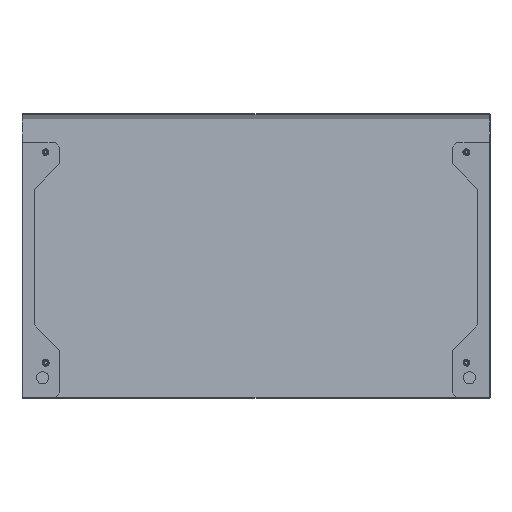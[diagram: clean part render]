
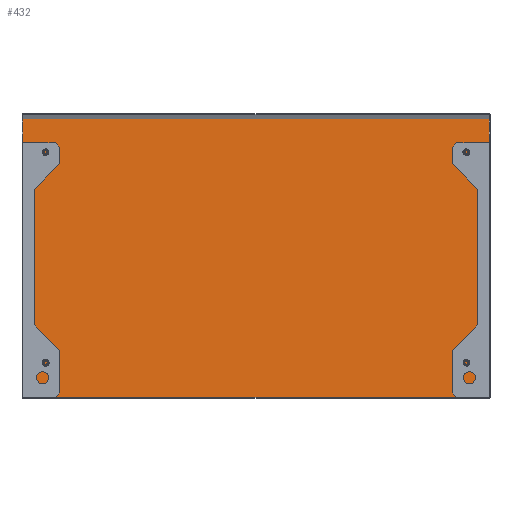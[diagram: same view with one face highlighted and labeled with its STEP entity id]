
A CAD part, front view. The second image highlights one B-rep face of the part: STEP entity #432.
In plain terms, the highlighted planar face has unit normal (0, -0.999, 0.054).
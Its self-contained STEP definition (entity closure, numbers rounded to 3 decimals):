
#315 = EDGE_CURVE ( 'NONE', #3249, #3251, #4048, .T. ) ;
#316 = EDGE_CURVE ( 'NONE', #3251, #3250, #4051, .T. ) ;
#317 = EDGE_CURVE ( 'NONE', #3248, #3249, #4054, .T. ) ;
#318 = EDGE_CURVE ( 'NONE', #3250, #3248, #4057, .T. ) ;
#432 = ADVANCED_FACE ( 'NONE', ( #785 ), #1394, .F. ) ;
#781 = AXIS2_PLACEMENT_3D ( 'NONE', #1395, #1396, #1397 ) ;
#785 = FACE_OUTER_BOUND ( 'NONE', #3488, .T. ) ;
#1077 = VECTOR ( 'NONE', #4059, 1000. ) ;
#1079 = VECTOR ( 'NONE', #4056, 1000. ) ;
#1081 = VECTOR ( 'NONE', #4053, 1000. ) ;
#1083 = VECTOR ( 'NONE', #4050, 1000. ) ;
#1394 = PLANE ( 'NONE',  #781 ) ;
#1395 = CARTESIAN_POINT ( 'NONE',  ( -1010., 57.67, 604.541 ) ) ;
#1396 = DIRECTION ( 'NONE',  ( 0., 0.999, -0.054 ) ) ;
#1397 = DIRECTION ( 'NONE',  ( 0., 0.054, 0.999 ) ) ;
#1642 = CARTESIAN_POINT ( 'NONE',  ( -2., 57.574, 602.774 ) ) ;
#1643 = CARTESIAN_POINT ( 'NONE',  ( -2., 24.905, 1.967 ) ) ;
#1644 = CARTESIAN_POINT ( 'NONE',  ( -1008., 57.574, 602.774 ) ) ;
#1645 = CARTESIAN_POINT ( 'NONE',  ( -1008., 24.905, 1.967 ) ) ;
#2023 = ORIENTED_EDGE ( 'NONE', *, *, #318, .F. ) ;
#2024 = ORIENTED_EDGE ( 'NONE', *, *, #315, .F. ) ;
#2025 = ORIENTED_EDGE ( 'NONE', *, *, #317, .F. ) ;
#2026 = ORIENTED_EDGE ( 'NONE', *, *, #316, .F. ) ;
#3248 = VERTEX_POINT ( 'NONE', #1642 ) ;
#3249 = VERTEX_POINT ( 'NONE', #1643 ) ;
#3250 = VERTEX_POINT ( 'NONE', #1644 ) ;
#3251 = VERTEX_POINT ( 'NONE', #1645 ) ;
#3488 = EDGE_LOOP ( 'NONE', ( #2026, #2024, #2025, #2023 ) ) ;
#4048 = LINE ( 'NONE', #4049, #1083 ) ;
#4049 = CARTESIAN_POINT ( 'NONE',  ( -1010., 24.905, 1.967 ) ) ;
#4050 = DIRECTION ( 'NONE',  ( -1., 0., 0. ) ) ;
#4051 = LINE ( 'NONE', #4052, #1081 ) ;
#4052 = CARTESIAN_POINT ( 'NONE',  ( -1008., 57.67, 604.541 ) ) ;
#4053 = DIRECTION ( 'NONE',  ( 0., 0.054, 0.999 ) ) ;
#4054 = LINE ( 'NONE', #4055, #1079 ) ;
#4055 = CARTESIAN_POINT ( 'NONE',  ( -2., 57.67, 604.541 ) ) ;
#4056 = DIRECTION ( 'NONE',  ( 0., -0.054, -0.999 ) ) ;
#4057 = LINE ( 'NONE', #4058, #1077 ) ;
#4058 = CARTESIAN_POINT ( 'NONE',  ( -1010., 57.574, 602.774 ) ) ;
#4059 = DIRECTION ( 'NONE',  ( 1., 0., 0. ) ) ;
